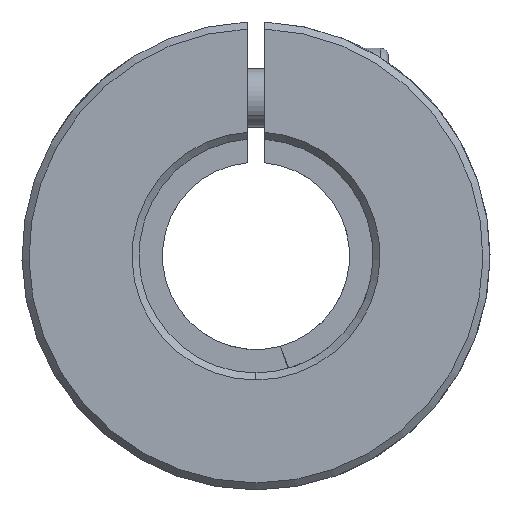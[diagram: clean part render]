
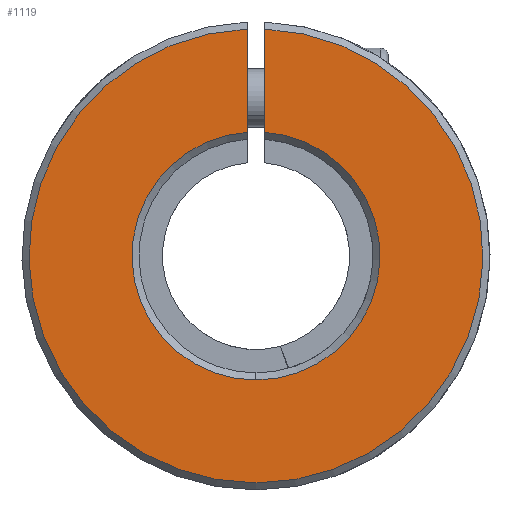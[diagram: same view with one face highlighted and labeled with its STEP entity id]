
A CAD part, front view. The second image highlights one B-rep face of the part: STEP entity #1119.
In plain terms, the highlighted planar face has unit normal (0, -1, 0).
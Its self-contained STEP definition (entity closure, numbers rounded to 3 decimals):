
#32 = FACE_OUTER_BOUND ( 'NONE', #3646, .T. ) ;
#245 = CARTESIAN_POINT ( 'NONE',  ( 0., -25., 0. ) ) ;
#320 = VERTEX_POINT ( 'NONE', #1615 ) ;
#344 = CIRCLE ( 'NONE', #1860, 19.4 ) ;
#817 = DIRECTION ( 'NONE',  ( 0., 0., -1. ) ) ;
#843 = CARTESIAN_POINT ( 'NONE',  ( 0.75, -25., 10.573 ) ) ;
#875 = CARTESIAN_POINT ( 'NONE',  ( -0.75, -25., 10.573 ) ) ;
#1119 = ADVANCED_FACE ( 'NONE', ( #32 ), #1839, .F. ) ;
#1176 = CARTESIAN_POINT ( 'NONE',  ( 0., -25., 0. ) ) ;
#1211 = CARTESIAN_POINT ( 'NONE',  ( -0.75, -25., 19.385 ) ) ;
#1615 = CARTESIAN_POINT ( 'NONE',  ( 0., -25., -10.6 ) ) ;
#1839 = PLANE ( 'NONE',  #2821 ) ;
#1860 = AXIS2_PLACEMENT_3D ( 'NONE', #245, #4654, #3385 ) ;
#1870 = CARTESIAN_POINT ( 'NONE',  ( 0., -25., 0. ) ) ;
#2140 = VERTEX_POINT ( 'NONE', #843 ) ;
#2153 = VECTOR ( 'NONE', #4044, 1000. ) ;
#2262 = ORIENTED_EDGE ( 'NONE', *, *, #2819, .T. ) ;
#2294 = ORIENTED_EDGE ( 'NONE', *, *, #3717, .T. ) ;
#2474 = EDGE_CURVE ( 'NONE', #3265, #5758, #3142, .T. ) ;
#2505 = LINE ( 'NONE', #3903, #3817 ) ;
#2694 = EDGE_CURVE ( 'NONE', #320, #3265, #3451, .T. ) ;
#2815 = AXIS2_PLACEMENT_3D ( 'NONE', #2944, #2838, #3760 ) ;
#2819 = EDGE_CURVE ( 'NONE', #4059, #2140, #2505, .T. ) ;
#2821 = AXIS2_PLACEMENT_3D ( 'NONE', #1870, #3667, #3582 ) ;
#2838 = DIRECTION ( 'NONE',  ( 0., 1., 0. ) ) ;
#2944 = CARTESIAN_POINT ( 'NONE',  ( 0., -25., 0. ) ) ;
#3142 = LINE ( 'NONE', #4921, #2153 ) ;
#3265 = VERTEX_POINT ( 'NONE', #875 ) ;
#3385 = DIRECTION ( 'NONE',  ( 0., 0., 1. ) ) ;
#3451 = CIRCLE ( 'NONE', #3638, 10.6 ) ;
#3478 = DIRECTION ( 'NONE',  ( 0., 1., 0. ) ) ;
#3582 = DIRECTION ( 'NONE',  ( 0., 0., 1. ) ) ;
#3638 = AXIS2_PLACEMENT_3D ( 'NONE', #1176, #3478, #4821 ) ;
#3646 = EDGE_LOOP ( 'NONE', ( #2262, #2294, #5402, #5438, #4680 ) ) ;
#3667 = DIRECTION ( 'NONE',  ( 0., 1., 0. ) ) ;
#3676 = EDGE_CURVE ( 'NONE', #5758, #4059, #344, .T. ) ;
#3717 = EDGE_CURVE ( 'NONE', #2140, #320, #4492, .T. ) ;
#3760 = DIRECTION ( 'NONE',  ( 0., 0., 1. ) ) ;
#3817 = VECTOR ( 'NONE', #817, 1000. ) ;
#3903 = CARTESIAN_POINT ( 'NONE',  ( 0.75, -25., -4. ) ) ;
#4044 = DIRECTION ( 'NONE',  ( 0., 0., 1. ) ) ;
#4059 = VERTEX_POINT ( 'NONE', #4592 ) ;
#4492 = CIRCLE ( 'NONE', #2815, 10.6 ) ;
#4592 = CARTESIAN_POINT ( 'NONE',  ( 0.75, -25., 19.385 ) ) ;
#4654 = DIRECTION ( 'NONE',  ( 0., -1., 0. ) ) ;
#4680 = ORIENTED_EDGE ( 'NONE', *, *, #3676, .T. ) ;
#4821 = DIRECTION ( 'NONE',  ( 0., 0., 1. ) ) ;
#4921 = CARTESIAN_POINT ( 'NONE',  ( -0.75, -25., -4. ) ) ;
#5402 = ORIENTED_EDGE ( 'NONE', *, *, #2694, .T. ) ;
#5438 = ORIENTED_EDGE ( 'NONE', *, *, #2474, .T. ) ;
#5758 = VERTEX_POINT ( 'NONE', #1211 ) ;
